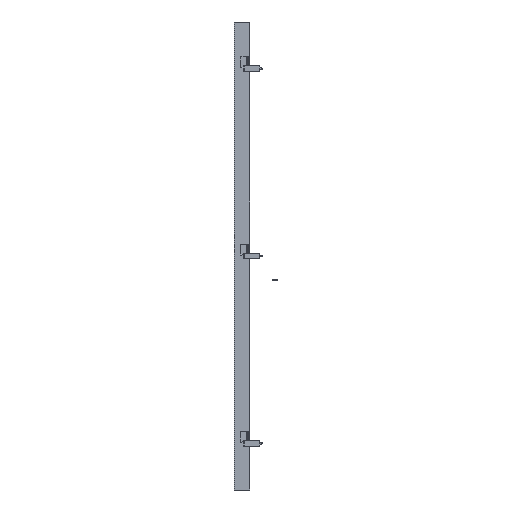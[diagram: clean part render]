
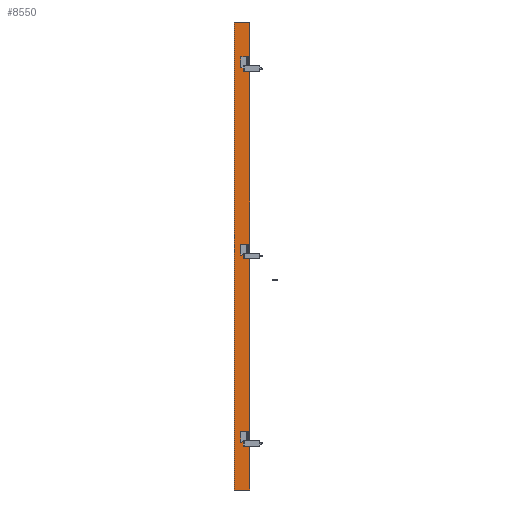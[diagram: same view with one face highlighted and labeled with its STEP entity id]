
A CAD part, left-side view. The second image highlights one B-rep face of the part: STEP entity #8550.
In plain terms, the highlighted planar face has unit normal (-1, 0, 0).
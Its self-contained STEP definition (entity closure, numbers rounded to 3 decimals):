
#1344=ORIENTED_EDGE('',*,*,#3852,.T.);
#1345=ORIENTED_EDGE('',*,*,#3853,.F.);
#1346=ORIENTED_EDGE('',*,*,#3854,.F.);
#1347=ORIENTED_EDGE('',*,*,#3855,.T.);
#1348=ORIENTED_EDGE('',*,*,#3856,.T.);
#1349=ORIENTED_EDGE('',*,*,#3857,.F.);
#1350=ORIENTED_EDGE('',*,*,#3858,.F.);
#1351=ORIENTED_EDGE('',*,*,#3859,.T.);
#1352=ORIENTED_EDGE('',*,*,#3860,.T.);
#1353=ORIENTED_EDGE('',*,*,#3861,.F.);
#1354=ORIENTED_EDGE('',*,*,#3862,.F.);
#1355=ORIENTED_EDGE('',*,*,#3863,.F.);
#1356=ORIENTED_EDGE('',*,*,#3864,.T.);
#1357=ORIENTED_EDGE('',*,*,#3865,.T.);
#1358=ORIENTED_EDGE('',*,*,#3866,.F.);
#1359=ORIENTED_EDGE('',*,*,#3867,.T.);
#3852=EDGE_CURVE('',#5089,#5090,#5918,.T.);
#3853=EDGE_CURVE('',#5091,#5090,#5919,.T.);
#3854=EDGE_CURVE('',#5092,#5091,#5920,.T.);
#3855=EDGE_CURVE('',#5092,#5093,#5921,.T.);
#3856=EDGE_CURVE('',#5093,#5094,#5922,.T.);
#3857=EDGE_CURVE('',#5095,#5094,#5923,.T.);
#3858=EDGE_CURVE('',#5096,#5095,#5924,.T.);
#3859=EDGE_CURVE('',#5096,#5097,#5925,.T.);
#3860=EDGE_CURVE('',#5097,#5098,#5926,.T.);
#3861=EDGE_CURVE('',#5099,#5098,#5927,.T.);
#3862=EDGE_CURVE('',#5100,#5099,#5928,.T.);
#3863=EDGE_CURVE('',#5101,#5100,#5929,.T.);
#3864=EDGE_CURVE('',#5101,#5102,#5930,.T.);
#3865=EDGE_CURVE('',#5102,#5103,#5931,.T.);
#3866=EDGE_CURVE('',#5104,#5103,#5932,.T.);
#3867=EDGE_CURVE('',#5104,#5089,#5933,.T.);
#5089=VERTEX_POINT('',#13539);
#5090=VERTEX_POINT('',#13540);
#5091=VERTEX_POINT('',#13542);
#5092=VERTEX_POINT('',#13544);
#5093=VERTEX_POINT('',#13546);
#5094=VERTEX_POINT('',#13548);
#5095=VERTEX_POINT('',#13550);
#5096=VERTEX_POINT('',#13552);
#5097=VERTEX_POINT('',#13554);
#5098=VERTEX_POINT('',#13556);
#5099=VERTEX_POINT('',#13558);
#5100=VERTEX_POINT('',#13560);
#5101=VERTEX_POINT('',#13562);
#5102=VERTEX_POINT('',#13564);
#5103=VERTEX_POINT('',#13566);
#5104=VERTEX_POINT('',#13568);
#5918=LINE('',#13538,#6538);
#5919=LINE('',#13541,#6539);
#5920=LINE('',#13543,#6540);
#5921=LINE('',#13545,#6541);
#5922=LINE('',#13547,#6542);
#5923=LINE('',#13549,#6543);
#5924=LINE('',#13551,#6544);
#5925=LINE('',#13553,#6545);
#5926=LINE('',#13555,#6546);
#5927=LINE('',#13557,#6547);
#5928=LINE('',#13559,#6548);
#5929=LINE('',#13561,#6549);
#5930=LINE('',#13563,#6550);
#5931=LINE('',#13565,#6551);
#5932=LINE('',#13567,#6552);
#5933=LINE('',#13569,#6553);
#6538=VECTOR('',#10739,1000.);
#6539=VECTOR('',#10740,1000.);
#6540=VECTOR('',#10741,1000.);
#6541=VECTOR('',#10742,1000.);
#6542=VECTOR('',#10743,1000.);
#6543=VECTOR('',#10744,1000.);
#6544=VECTOR('',#10745,1000.);
#6545=VECTOR('',#10746,1000.);
#6546=VECTOR('',#10747,1000.);
#6547=VECTOR('',#10748,1000.);
#6548=VECTOR('',#10749,1000.);
#6549=VECTOR('',#10750,1000.);
#6550=VECTOR('',#10751,1000.);
#6551=VECTOR('',#10752,1000.);
#6552=VECTOR('',#10753,1000.);
#6553=VECTOR('',#10754,1000.);
#7055=EDGE_LOOP('',(#1344,#1345,#1346,#1347,#1348,#1349,#1350,#1351,#1352,
#1353,#1354,#1355,#1356,#1357,#1358,#1359));
#7725=FACE_BOUND('',#7055,.T.);
#8365=PLANE('',#9461);
#8550=ADVANCED_FACE('',(#7725),#8365,.F.);
#9461=AXIS2_PLACEMENT_3D('',#13537,#10737,#10738);
#10737=DIRECTION('',(1.,0.,0.));
#10738=DIRECTION('',(0.,1.,0.));
#10739=DIRECTION('',(0.,0.,1.));
#10740=DIRECTION('',(0.,1.,0.));
#10741=DIRECTION('',(0.,0.,-1.));
#10742=DIRECTION('',(0.,1.,0.));
#10743=DIRECTION('',(0.,0.,1.));
#10744=DIRECTION('',(0.,1.,0.));
#10745=DIRECTION('',(0.,0.,-1.));
#10746=DIRECTION('',(0.,1.,0.));
#10747=DIRECTION('',(0.,0.,1.));
#10748=DIRECTION('',(0.,1.,0.));
#10749=DIRECTION('',(0.,0.,-1.));
#10750=DIRECTION('',(0.,-1.,0.));
#10751=DIRECTION('',(0.,0.,-1.));
#10752=DIRECTION('',(0.,-1.,0.));
#10753=DIRECTION('',(0.,0.,-1.));
#10754=DIRECTION('',(0.,1.,0.));
#13537=CARTESIAN_POINT('',(-14.,-7.5,726.5));
#13538=CARTESIAN_POINT('',(-14.,20.,-544.5));
#13539=CARTESIAN_POINT('',(-14.,20.,-578.5));
#13540=CARTESIAN_POINT('',(-14.,20.,-544.5));
#13541=CARTESIAN_POINT('',(-14.,-1454.096,-544.5));
#13542=CARTESIAN_POINT('',(-14.,-7.5,-544.5));
#13543=CARTESIAN_POINT('',(-14.,-7.5,726.5));
#13544=CARTESIAN_POINT('',(-14.,-7.5,3.));
#13545=CARTESIAN_POINT('',(-14.,-1454.096,3.));
#13546=CARTESIAN_POINT('',(-14.,20.,3.));
#13547=CARTESIAN_POINT('',(-14.,20.,37.));
#13548=CARTESIAN_POINT('',(-14.,20.,37.));
#13549=CARTESIAN_POINT('',(-14.,-1454.096,37.));
#13550=CARTESIAN_POINT('',(-14.,-7.5,37.));
#13551=CARTESIAN_POINT('',(-14.,-7.5,726.5));
#13552=CARTESIAN_POINT('',(-14.,-7.5,584.5));
#13553=CARTESIAN_POINT('',(-14.,-1454.096,584.5));
#13554=CARTESIAN_POINT('',(-14.,20.,584.5));
#13555=CARTESIAN_POINT('',(-14.,20.,618.5));
#13556=CARTESIAN_POINT('',(-14.,20.,618.5));
#13557=CARTESIAN_POINT('',(-14.,-1454.096,618.5));
#13558=CARTESIAN_POINT('',(-14.,-7.5,618.5));
#13559=CARTESIAN_POINT('',(-14.,-7.5,726.5));
#13560=CARTESIAN_POINT('',(-14.,-7.5,726.5));
#13561=CARTESIAN_POINT('',(-14.,-7.5,726.5));
#13562=CARTESIAN_POINT('',(-14.,40.5,726.5));
#13563=CARTESIAN_POINT('',(-14.,40.5,726.5));
#13564=CARTESIAN_POINT('',(-14.,40.5,-726.5));
#13565=CARTESIAN_POINT('',(-14.,-7.5,-726.5));
#13566=CARTESIAN_POINT('',(-14.,-7.5,-726.5));
#13567=CARTESIAN_POINT('',(-14.,-7.5,726.5));
#13568=CARTESIAN_POINT('',(-14.,-7.5,-578.5));
#13569=CARTESIAN_POINT('',(-14.,-1454.096,-578.5));
